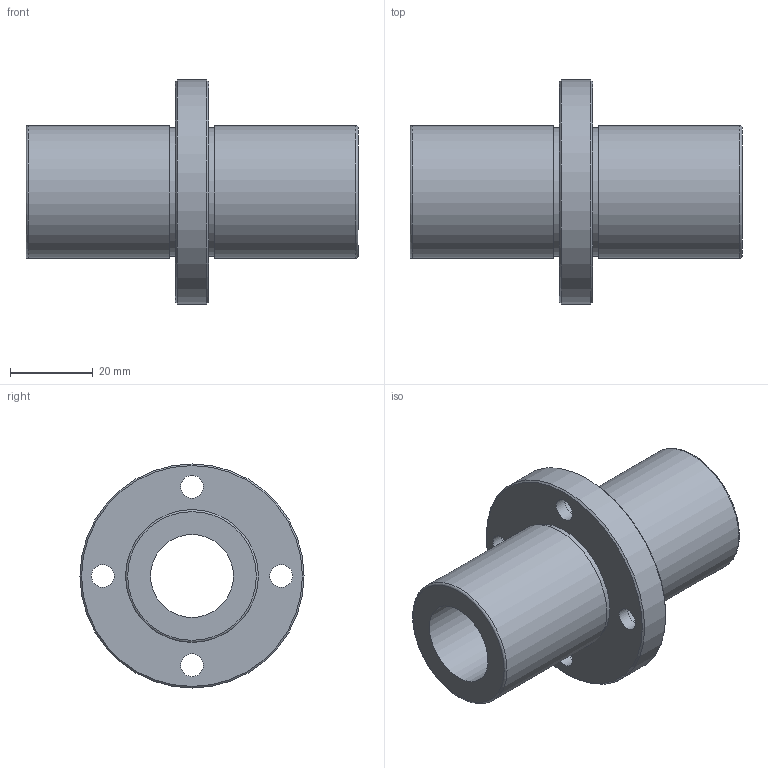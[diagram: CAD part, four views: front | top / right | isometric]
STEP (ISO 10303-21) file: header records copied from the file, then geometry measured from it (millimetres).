
FILE_DESCRIPTION(('STEP AP203'),'1');
FILE_NAME('//192.168.1.1/share/s-4 技術開発/s-4-4_CAD/s-4-4-3_見直し済み/002 修正済み/NFCD-VL/NFCD-VL_TOP/NFCD-20VLUU.step','2022-03-08T04:19:09',(' '),(' '),'Spatial InterOp 3D',' ',' ');
FILE_SCHEMA(('CONFIG_CONTROL_DESIGN'));
Length unit declared in the file: millimetre
Products named in the file (1): 1
Bounding box: 80 x 54 x 54 mm (x, y, z)
Volume: 49335.3 mm3; surface area: 18226.4 mm2
Topology: 1 solids, 1 shells, 28 faces, 56 edges, 38 vertices
Faces by surface type: cylinder 14, plane 10, torus 2, cone 2
Full cylindrical faces by diameter (mm): 5.5 x4, 9 x4, 20 x1, 31 x2, 32 x2, 54 x1
Entity records: 668 total; most frequent: DIRECTION 122, CARTESIAN_POINT 93, EDGE_LOOP 64, ORIENTED_EDGE 64, AXIS2_PLACEMENT_3D 61, FACE_OUTER_BOUND 44, EDGE_CURVE 32, VERTEX_POINT 32
